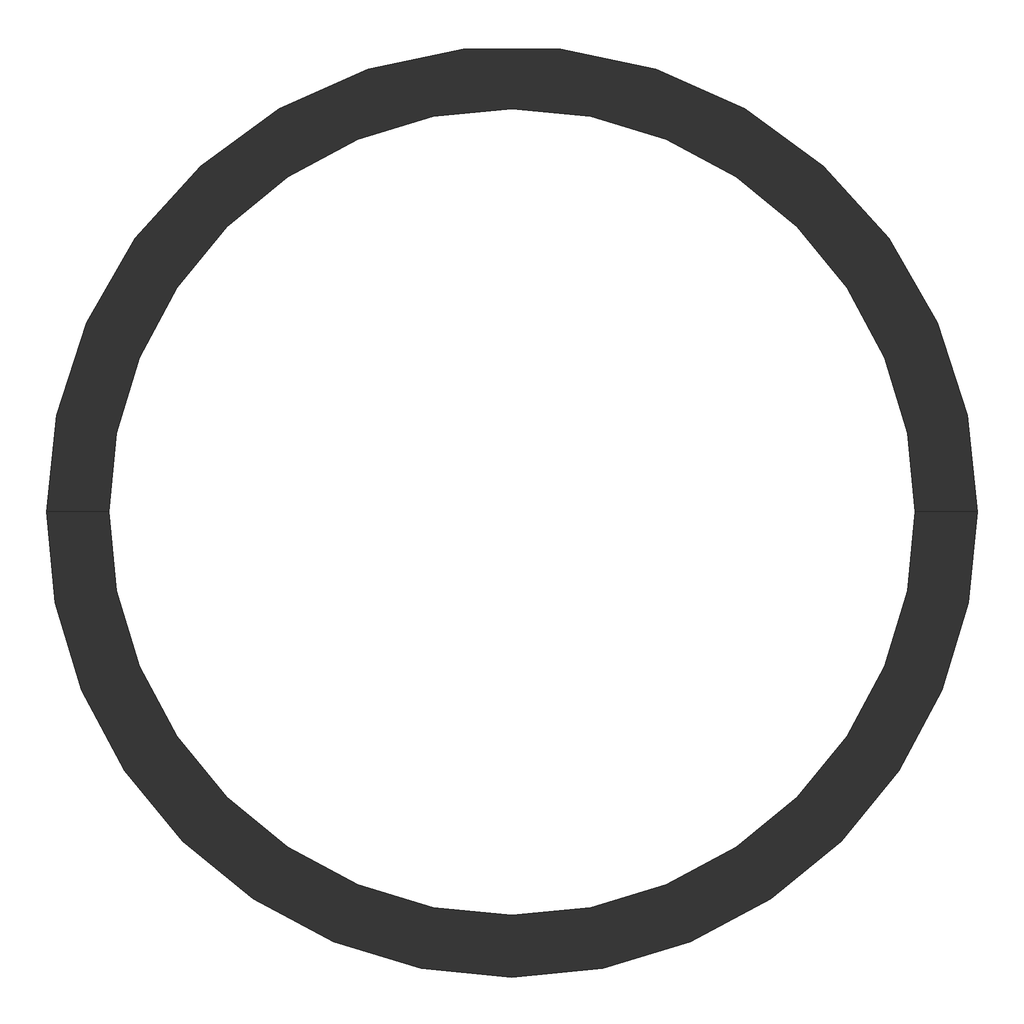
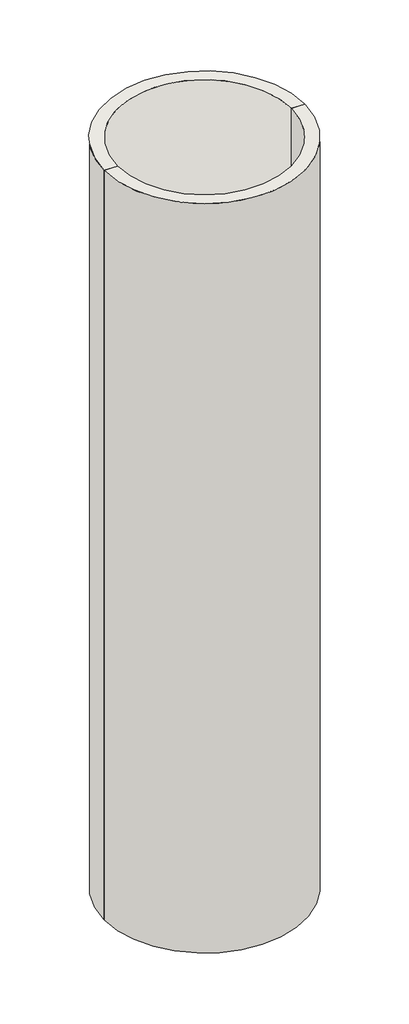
# One storey, incomplete: 2 walls.
"""IFC4 building model written with IfcOpenShell, lengths in millimetres."""

from ifc_helpers import new_model, si_unit, point, frame, frame_2d, origin, origin_with_axes, place, context, project, spatial, polyline, circle_curve, trimmed, segment, composite_curve, outline, extrude, element, save
from ifc_brep_helpers import plane_surface, cylinder_surface, revolved_surface, advanced_brep

model = new_model("IFC4")

# Units and contexts
model_context = context("Model", 3, world=origin())
ifc_project = project(units=[si_unit("LENGTHUNIT", "METRE", prefix="MILLI")], contexts=[model_context])

# Site, building, storey
site = spatial("IfcSite", under=ifc_project)
building = spatial("IfcBuilding", under=site)
storey = spatial("IfcBuildingStorey", under=building, Name="标高 1", Elevation=0.0)

# Walls
placement = place(None, origin())
element("IfcWall", 1, ObjectType="支撑", at=placement, inside=storey, context=model_context, shape_type="AdvancedBrep", body=[
    advanced_brep(
    [(-1663.8701599, 497.2359449, 0.0), (-1863.8701599, 497.2359449, 0.0), (1136.1298401, 497.2359449, 0.0), (936.1298401, 497.2359449, 0.0), (936.1298401, 497.2359449, 11850.0), (-1663.8701599, 497.2359449, 11850.0), (1136.1298401, 497.2359449, 11850.0), (-1863.8701599, 497.2359449, 11850.0), (-1772.2171718, 1013.5291698, 11850.0), (-391.6543886, 1996.9786017, 11850.0)],
    [
        (0, 1),
        (1, 2, circle_curve(frame((-363.8701599, 497.2359449, 0.0), z_axis=(0.0, 0.0, -1.0), x_axis=(1.0, 0.0, 0.0)), 1500.0)),
        (2, 3),
        (3, 0, circle_curve(frame((-363.8701599, 497.2359449, 0.0), z_axis=(0.0, 0.0, 1.0), x_axis=(1.0, 0.0, 0.0)), 1300.0)),
        (4, 5, circle_curve(frame((-363.8701599, 497.2359449, 11850.0), z_axis=(0.0, 0.0, 1.0), x_axis=(1.0, 0.0, 0.0)), 1300.0)),
        (5, 0),
        (3, 4),
        (6, 4),
        (2, 6),
        (7, 8, circle_curve(frame((-363.8701599, 497.2359449, 11850.0), z_axis=(0.0, 0.0, -1.0), x_axis=(1.0, 0.0, 0.0)), 1500.0)),
        (8, 9, circle_curve(frame((-363.8701599, 497.2359449, 11850.0), z_axis=(0.0, 0.0, -1.0), x_axis=(1.0, 0.0, 0.0)), 1500.0)),
        (9, 6, circle_curve(frame((-363.8701599, 497.2359449, 11850.0), z_axis=(0.0, 0.0, -1.0), x_axis=(1.0, 0.0, 0.0)), 1500.0)),
        (1, 7),
        (5, 7),
    ],
    [
        plane_surface(frame((936.1298401, 497.2359449, 0.0), z_axis=(0.0, 0.0, -1.0), x_axis=(0.0, 1.0, 0.0))),
        revolved_surface(polyline([(936.1298401, 497.2359449, 0.0), (936.1298401, 497.2359449, 11850.0)]), (-363.8701599, 497.2359449, 0.0), (0.0, 0.0, -1.0)),
        plane_surface(frame((936.1298401, 497.2359449, 11850.0), z_axis=(0.0, -1.0, 0.0), x_axis=(0.0, 0.0, -1.0))),
        cylinder_surface(frame((-363.8701599, 497.2359449, 0.0), z_axis=(0.0, 0.0, 1.0), x_axis=(1.0, 0.0, 0.0)), 1500.0),
        plane_surface(frame((-1863.8701599, 497.2359449, 11850.0), z_axis=(0.0, -1.0, 0.0), x_axis=(0.0, 0.0, -1.0))),
        plane_surface(frame((-1772.2171718, 1013.5291698, 11850.0), z_axis=(0.0, 0.0, 1.0000000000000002), x_axis=(0.9388980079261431, -0.3441954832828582, 0.0))),
    ],
    [
        (0, [[1, 2, 3, 4]]),
        (1, [[5, 6, -4, 7]]),
        (2, [[8, -7, -3, 9]]),
        (3, [[10, 11, 12, -9, -2, 13]]),
        (4, [[14, -13, -1, -6]]),
        (5, [[-5, -8, -12, -11, -10, -14]]),
    ],
),
])
element("IfcWall", 2, ObjectType="支撑", at=placement, inside=storey, context=model_context, shape_type="SweptSolid", body=[
    extrude(outline(composite_curve([segment(polyline([(936.1298401, 497.2359449), (1136.1298401, 497.2359449)]), True, "CONTINUOUS"), segment(trimmed(circle_curve(frame_2d((-363.8701599, 497.2359449)), 1500.0), [point((1136.1298401, 497.2359449))], [point((-1863.8701599, 497.2359449))], False, "CARTESIAN"), True, "CONTINUOUS"), segment(polyline([(-1863.8701599, 497.2359449), (-1663.8701599, 497.2359449)]), True, "CONTINUOUS"), segment(trimmed(circle_curve(frame_2d((-363.8701599, 497.2359449)), 1300.0), [point((-1663.8701599, 497.2359449))], [point((936.1298401, 497.2359449))], True, "CARTESIAN"), True, "CONTINUOUS")], self_intersect=False)), origin_with_axes(), (0.0, 0.0, 1.0), 11850.0),
])

save(model, "model.ifc")
